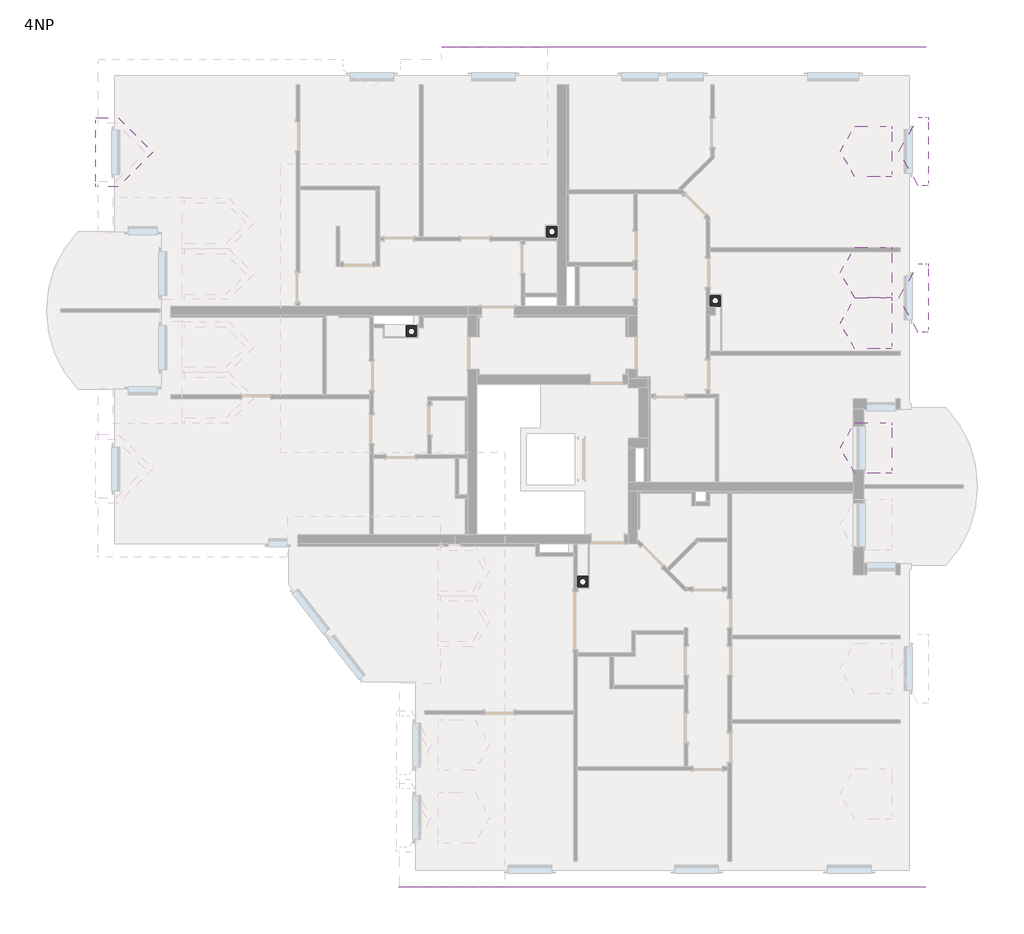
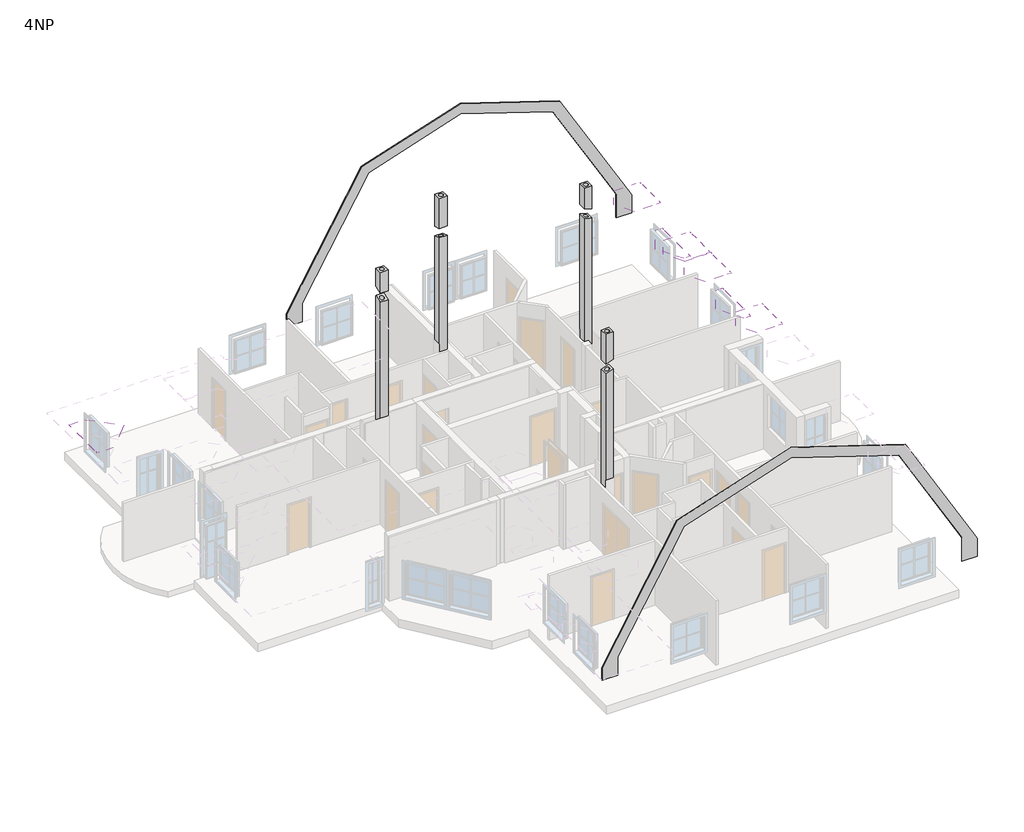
# One storey, part 5 of 5: 7 roofs, 4 columns, 2 proxies.
"""IFC4 building model written with IfcOpenShell, lengths in millimetres."""

import ifcopenshell
import ifcopenshell.guid

model = None  # the IFC model being written
_history = None  # IfcOwnerHistory: only IFC2X3 demands one
_inside = {}  # id of a spatial element -> (the spatial element, [elements in it])
_under = {}  # id of a project, library or spatial element -> (it, [spatial elements below it])
_declared = {}  # id of a project -> (the project, [libraries it declares])
_typed = {}  # id of a type object -> (the type object, [elements of that type])
_made_of = {}  # id of a material, layer set ... -> (it, [elements and type objects made of it])


def new_model(schema):
    """Start an empty IFC model of exactly this schema.

    Asked for "IFC4X3", IfcOpenShell would pick the latest addendum, in which some entities
    have other attributes; the version numbers below select the first issue.
    IFC2X3 requires an IfcOwnerHistory on every rooted entity: one is made here for all.
    """
    global model, _history
    if schema == "IFC4X3":
        model = ifcopenshell.file(schema_version=(4, 3, 0, 0))
    else:
        model = ifcopenshell.file(schema=schema)
    _inside.clear()
    _under.clear()
    _declared.clear()
    _typed.clear()
    _made_of.clear()
    _history = None
    if model.schema == "IFC2X3":
        org = make("IfcOrganization", Name="unknown")
        user = make(
            "IfcPersonAndOrganization",
            ThePerson=make("IfcPerson", FamilyName="unknown"),
            TheOrganization=org,
        )
        app = make(
            "IfcApplication",
            ApplicationDeveloper=org,
            Version="unknown",
            ApplicationFullName="unknown",
            ApplicationIdentifier="unknown",
        )
        _history = make(
            "IfcOwnerHistory",
            OwningUser=user,
            OwningApplication=app,
            ChangeAction="ADDED",
            CreationDate=0,
        )
    return model


def make(cls, **values):
    """One entity of the class cls with the attributes given. An attribute that is None is left unset."""
    return model.create_entity(
        cls, **{name: value for name, value in values.items() if value is not None}
    )


def rooted(cls, **values):
    """An entity with a GlobalId (a new one), such as an element, a storey or a relation."""
    return make(cls, GlobalId=ifcopenshell.guid.new(), OwnerHistory=_history, **values)


def si_unit(unit_type, name, prefix=None):
    """IfcSIUnit, for example si_unit("LENGTHUNIT", "METRE", prefix="MILLI")."""
    return make("IfcSIUnit", UnitType=unit_type, Prefix=prefix, Name=name)


def assignment(units):
    """IfcUnitAssignment: the units of a project."""
    return None if units is None else make("IfcUnitAssignment", Units=units)


def point(xyz):
    """IfcCartesianPoint."""
    return None if xyz is None else make("IfcCartesianPoint", Coordinates=xyz)


def direction(xyz):
    """IfcDirection."""
    return None if xyz is None else make("IfcDirection", DirectionRatios=xyz)


def frame(location, z_axis=None, x_axis=None):
    """IfcAxis2Placement3D, a coordinate frame: its origin and axes. An axis left out is left unset."""
    return make(
        "IfcAxis2Placement3D",
        Location=point(location),
        Axis=direction(z_axis),
        RefDirection=direction(x_axis),
    )


def origin():
    """The frame at (0, 0, 0) with its axes left unset."""
    return frame((0.0, 0.0, 0.0))


def place(relative_to, where):
    """IfcLocalPlacement: puts the frame where relative to a parent placement (None: the world)."""
    return make(
        "IfcLocalPlacement", PlacementRelTo=relative_to, RelativePlacement=where
    )


def context(
    kind, dimensions, precision=None, world=None, true_north=None, identifier=None
):
    """IfcGeometricRepresentationContext, for example the 3D "Model" context."""
    return make(
        "IfcGeometricRepresentationContext",
        ContextIdentifier=identifier,
        ContextType=kind,
        CoordinateSpaceDimension=dimensions,
        Precision=precision,
        WorldCoordinateSystem=world,
        TrueNorth=true_north,
    )


def project(units=None, contexts=None):
    """IfcProject with its units and contexts."""
    return rooted(
        "IfcProject",
        Name="project",
        RepresentationContexts=contexts,
        UnitsInContext=assignment(units),
    )


def spatial(cls, under=None, at=None, **own):
    """A site, building, storey or space (cls), placed at a placement, below another one or the project."""
    s = rooted(cls, ObjectPlacement=at, **own)
    if under is not None:
        _under.setdefault(under.id(), (under, []))[1].append(s)
    return s


def polyline(points):
    """IfcPolyline through the points."""
    return make("IfcPolyline", Points=[point(p) for p in points])


def circle_curve(where, radius):
    """IfcCircle in the frame where."""
    return make("IfcCircle", Position=where, Radius=radius)


def ellipse_curve(where, semi_axis1, semi_axis2):
    """IfcEllipse in the frame where."""
    return make(
        "IfcEllipse", Position=where, SemiAxis1=semi_axis1, SemiAxis2=semi_axis2
    )


def outline(outer, holes=None, kind="AREA"):
    """IfcArbitraryClosedProfileDef: a profile drawn as a closed curve; with holes, ...WithVoids."""
    if holes is None:
        return make("IfcArbitraryClosedProfileDef", ProfileType=kind, OuterCurve=outer)
    return make(
        "IfcArbitraryProfileDefWithVoids",
        ProfileType=kind,
        OuterCurve=outer,
        InnerCurves=holes,
    )


def extrude(swept, where, along, depth):
    """IfcExtrudedAreaSolid: the profile swept, set in the frame where, extruded along a direction by depth."""
    return make(
        "IfcExtrudedAreaSolid",
        SweptArea=swept,
        Position=where,
        ExtrudedDirection=direction(along),
        Depth=depth,
    )


def faces_of(points, faces, orient=None, outer=None):
    """IfcFace entities. A face is a list of loops; a loop is a list of indices into points, from 0.

    orient and outer hold one flag for each loop. By default every Orientation is true, the
    first loop of a face is its IfcFaceOuterBound and the others are IfcFaceBound.
    """
    made = []
    for i, loops in enumerate(faces):
        bounds = []
        for j, loop in enumerate(loops):
            is_outer = j == 0 if outer is None else outer[i][j]
            bounds.append(
                make(
                    "IfcFaceOuterBound" if is_outer else "IfcFaceBound",
                    Bound=make("IfcPolyLoop", Polygon=[points[k] for k in loop]),
                    Orientation=True if orient is None else orient[i][j],
                )
            )
        made.append(make("IfcFace", Bounds=bounds))
    return made


def faceted_brep(points, faces, orient=None, outer=None, voids=None):
    """IfcFacetedBrep: a solid bounded by flat faces; with voids (closed shells), ...WithVoids."""
    shared = [point(p) for p in points]
    hull = make("IfcClosedShell", CfsFaces=faces_of(shared, faces, orient, outer))
    if voids is None:
        return make("IfcFacetedBrep", Outer=hull)
    return make(
        "IfcFacetedBrepWithVoids",
        Outer=hull,
        Voids=[
            make(cls, CfsFaces=faces_of(shared, fs, o, b)) for cls, fs, o, b in voids
        ],
    )


def shape(context_of_items, identifier, shape_type, items):
    """IfcShapeRepresentation: the items that make up one representation, for example the "Body"."""
    return make(
        "IfcShapeRepresentation",
        ContextOfItems=context_of_items,
        RepresentationIdentifier=identifier,
        RepresentationType=shape_type,
        Items=items,
    )


def source(mapping_origin, context_of_items, identifier, shape_type, items):
    """IfcRepresentationMap: a shape defined once, which mapped items show again and again."""
    return make(
        "IfcRepresentationMap",
        MappingOrigin=mapping_origin,
        MappedRepresentation=shape(context_of_items, identifier, shape_type, items),
    )


def transform(
    local_origin,
    x_axis=None,
    y_axis=None,
    z_axis=None,
    scale=None,
    scale2=None,
    scale3=None,
    uniform=True,
):
    """IfcCartesianTransformationOperator3D, or its non-uniform kind. x_axis, y_axis, z_axis: its Axis1, 2, 3."""
    if uniform:
        return make(
            "IfcCartesianTransformationOperator3D",
            Axis1=direction(x_axis),
            Axis2=direction(y_axis),
            LocalOrigin=point(local_origin),
            Scale=scale,
            Axis3=direction(z_axis),
        )
    return make(
        "IfcCartesianTransformationOperator3DnonUniform",
        Axis1=direction(x_axis),
        Axis2=direction(y_axis),
        LocalOrigin=point(local_origin),
        Scale=scale,
        Axis3=direction(z_axis),
        Scale2=scale2,
        Scale3=scale3,
    )


def mapped(mapping_source, mapping_target):
    """IfcMappedItem: shows the shape of a source again, moved by a transform."""
    return make(
        "IfcMappedItem", MappingSource=mapping_source, MappingTarget=mapping_target
    )


def made_of(thing, what):
    """Note that an element or type object is made of a material, layer set ...; save() writes the relation."""
    if what is not None:
        _made_of.setdefault(what.id(), (what, []))[1].append(thing)
    return thing


def element(
    cls,
    number,
    at=None,
    inside=None,
    cuts=None,
    type_object=None,
    material=None,
    context=None,
    identifier="Body",
    shape_type=None,
    held_by="IfcProductDefinitionShape",
    body=None,
    shapes=None,
    **own,
):
    """One element of the class cls, such as IfcWall. Its Tag is "e" and its number.

    at: its placement. inside: the storey or other place that contains it. cuts: it is an
    opening in that element (IfcRelVoidsElement). A single representation is given by context,
    identifier, shape_type and body (its items); several are given by shapes. held_by: the class
    of the entity that holds the representations. save() writes the other relations.
    """
    e = rooted(cls, Tag="e%d" % number, ObjectPlacement=at, **own)
    if body is not None:
        shapes = [shape(context, identifier, shape_type, body)]
    if shapes is not None:
        e.Representation = make(held_by, Representations=shapes)
    if inside is not None:
        _inside.setdefault(inside.id(), (inside, []))[1].append(e)
    if cuts is not None:
        rooted(
            "IfcRelVoidsElement", RelatingBuildingElement=cuts, RelatedOpeningElement=e
        )
    if type_object is not None:
        _typed.setdefault(type_object.id(), (type_object, []))[1].append(e)
    return made_of(e, material)


def aggregate(whole, parts):
    """IfcRelAggregates: a whole, such as a stair, and the parts it consists of."""
    return rooted("IfcRelAggregates", RelatingObject=whole, RelatedObjects=parts)


def save(model, path):
    """Write the relations noted so far, then the file.

    IfcRelAggregates (storeys below a building ...), IfcRelContainedInSpatialStructure (elements
    in a storey), IfcRelDefinesByType, IfcRelAssociatesMaterial and IfcRelDeclares: one each for
    every whole, place, type object, material and project.
    """
    for whole, parts in _under.values():
        aggregate(whole, parts)
    for where, things in _inside.values():
        rooted(
            "IfcRelContainedInSpatialStructure",
            RelatedElements=things,
            RelatingStructure=where,
        )
    for kind, things in _typed.values():
        rooted("IfcRelDefinesByType", RelatedObjects=things, RelatingType=kind)
    for what, things in _made_of.values():
        rooted("IfcRelAssociatesMaterial", RelatedObjects=things, RelatingMaterial=what)
    for by, libraries in _declared.values():
        rooted("IfcRelDeclares", RelatingContext=by, RelatedDefinitions=libraries)
    model.write(path)


def plane_surface(at):
    """IfcPlane: the flat surface through the origin of the frame at, square to its z axis."""
    return make("IfcPlane", Position=at)


def revolved_surface(curve, axis_point, axis_direction):
    """IfcSurfaceOfRevolution: the curve turned about the line through axis_point along axis_direction."""
    return make(
        "IfcSurfaceOfRevolution",
        SweptCurve=make("IfcArbitraryOpenProfileDef", ProfileType="CURVE", Curve=curve),
        AxisPosition=make("IfcAxis1Placement", Location=point(axis_point), Axis=direction(axis_direction)),
    )


def advanced_brep(points, edges, surfaces, faces):
    """IfcAdvancedBrep: a solid bounded by faces that lie on surfaces and meet in shared edges.

    An edge is (start, end): straight between two places in points (the first is 0);
    or (start, end, curve); or (start, end, curve, False) where it runs against its curve.
    A face is (place in surfaces, loops), or (place, loops, False) where it looks against
    its surface's normal. A loop lists edges by number (the first is 1), with a minus sign
    where the edge is run from its end to its start. The first loop is the outer one.
    """
    corners = [point(p) for p in points]
    vertices = [make("IfcVertexPoint", VertexGeometry=c) for c in corners]
    made = []
    for start, end, *more in edges:
        made.append(
            make(
                "IfcEdgeCurve",
                EdgeStart=vertices[start],
                EdgeEnd=vertices[end],
                EdgeGeometry=more[0] if more else make("IfcPolyline", Points=[corners[start], corners[end]]),
                SameSense=more[1] if len(more) > 1 else True,
            )
        )
    hull = []
    for where, loops, *sense in faces:
        bounds = []
        for j, loop in enumerate(loops):
            ring = [make("IfcOrientedEdge", EdgeElement=made[abs(k) - 1], Orientation=k > 0) for k in loop]
            bounds.append(
                make(
                    "IfcFaceOuterBound" if j == 0 else "IfcFaceBound",
                    Bound=make("IfcEdgeLoop", EdgeList=ring),
                    Orientation=True,
                )
            )
        hull.append(make("IfcAdvancedFace", Bounds=bounds, FaceSurface=surfaces[where], SameSense=sense[0] if sense else True))
    return make("IfcAdvancedBrep", Outer=make("IfcClosedShell", CfsFaces=hull))


def first_first_963d72c4(model_context):
    return source(origin(), model_context, "Body", "SweptSolid", [
        extrude(outline(polyline([(17308.5230625, 2571.9978058), (15874.4631818, -1841.5846805), (10859.1168825, -4743.2922165), (10350.0, -4743.2922165), (10350.0, -4137.1962165), (11107.9606859, -4137.1962165), (15541.4241828, -1572.1461339), (16887.9381728, 2571.9978058), (15541.4515416, 6716.0575439), (11308.6981242, 9162.8037835), (10350.0, 9162.8037835), (10350.0, 9762.8037835), (11070.0, 9762.8037835), (15874.4631818, 6985.5802922), (17308.5230625, 2571.9978058)])), frame((0.0, -11552.3709459, 0.0), z_axis=(0.0, 1.0, 0.0), x_axis=(0.0, 0.0, 1.0)), (0.0, 0.0, 1.0), 20.0),
    ])


def first2_first2_621e7f1b(model_context):
    return source(origin(), model_context, "Body", "SweptSolid", [
        extrude(outline(polyline([(15874.4631818, 6985.5802922), (17118.4450402, 3156.9978058), (15874.4631818, -671.5846805), (10859.1168825, -3567.1962165), (10350.0, -3567.1962165), (10350.0, -2967.1962165), (11098.347367, -2967.1962165), (15541.4887794, -401.947326), (16697.8601505, 3156.9978058), (15541.4515416, 6716.0575439), (11308.6981242, 9162.8037835), (10350.0, 9162.8037835), (10350.0, 9762.8037835), (11070.0, 9762.8037835), (15874.4631818, 6985.5802922)])), frame((0.0, 11592.3927558, 0.0), z_axis=(0.0, 1.0, 0.0), x_axis=(0.0, 0.0, 1.0)), (0.0, 0.0, 1.0), 25.0),
    ])


model = new_model("IFC4")

# Units and contexts
model_context = context("Model", 3, world=origin())
ifc_project = project(units=[si_unit("LENGTHUNIT", "METRE", prefix="MILLI")], contexts=[model_context])

# Site, building, storey
site = spatial("IfcSite", under=ifc_project)
building = spatial("IfcBuilding", under=site)
storey = spatial("IfcBuildingStorey", under=building, Name="4NP", Elevation=8850.0)

# Proxies
placement = place(None, origin())
first_first_shape = first_first_963d72c4(model_context)
element("IfcBuildingElementProxy", 1, Name="first : first", ObjectType="first : first", at=placement, inside=storey, context=model_context, shape_type="MappedRepresentation", body=[
    mapped(first_first_shape, transform((0.0, 0.0, 0.0), x_axis=(1.0, 0.0, 0.0), y_axis=(0.0, 1.0, 0.0), z_axis=(0.0, 0.0, 1.0))),
])
first2_first2_shape = first2_first2_621e7f1b(model_context)
element("IfcBuildingElementProxy", 2, Name="first2 : first2", ObjectType="first2 : first2", at=placement, inside=storey, context=model_context, shape_type="MappedRepresentation", body=[
    mapped(first2_first2_shape, transform((0.0, 0.0, 0.0), x_axis=(1.0, 0.0, 0.0), y_axis=(0.0, 1.0, 0.0), z_axis=(0.0, 0.0, 1.0))),
])

# Columns
element("IfcColumn", 3, ObjectType="AT Kamin : 300/300/160", at=placement, inside=storey, context=model_context, shape_type="AdvancedBrep", body=[
    advanced_brep(
    [(-4257.1962165, 3917.6290541, 17750.0), (-4557.1962165, 3917.6290541, 17750.0), (-4557.1962165, 3617.6290541, 17750.0), (-4257.1962165, 3617.6290541, 17750.0), (-4487.1962165, 3767.6290541, 17750.0), (-4327.1962165, 3767.6290541, 17750.0), (-4257.1962165, 3917.6290541, 17005.3753871), (-4541.2600407, 3917.6290541, 17005.3753871), (-4557.1962165, 3917.6290541, 17000.1974097), (-4557.1962165, 3901.6928783, 17000.1974097), (-4557.1962165, 3617.6290541, 16907.8994783), (-4257.1962165, 3617.6290541, 16907.8994783), (-4487.1962165, 3767.6290541, 16956.6374327), (-4327.1962165, 3767.6290541, 16956.6374327)],
    [
        (0, 1),
        (1, 2),
        (2, 3),
        (3, 0),
        (4, 5, circle_curve(frame((-4407.1962165, 3767.6290541, 17750.0), z_axis=(0.0, 0.0, -1.0), x_axis=(1.0, 0.0, 0.0)), 80.0)),
        (5, 4, circle_curve(frame((-4407.1962165, 3767.6290541, 17750.0), z_axis=(0.0, 0.0, -1.0), x_axis=(1.0, 0.0, 0.0)), 80.0)),
        (0, 6),
        (6, 7),
        (7, 8),
        (8, 1),
        (8, 9),
        (9, 10),
        (10, 2),
        (10, 11),
        (11, 3),
        (11, 6),
        (4, 12),
        (12, 13, ellipse_curve(frame((-4407.1962165, 3767.6290541, 16956.6374327), z_axis=(0.0, 0.30901699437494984, -0.9510565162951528), x_axis=(0.0, -0.9510565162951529, -0.30901699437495)), 84.1169779, 80.0)),
        (13, 5),
        (13, 12, ellipse_curve(frame((-4407.1962165, 3767.6290541, 16956.6374327), z_axis=(0.0, 0.30901699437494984, -0.9510565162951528), x_axis=(0.0, -0.9510565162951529, -0.30901699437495)), 84.1169779, 80.0)),
        (7, 9),
    ],
    [
        plane_surface(frame((-4557.1962165, 3917.6290541, 17750.0), z_axis=(0.0, 0.0, 1.0), x_axis=(-1.0, 0.0, 0.0))),
        plane_surface(frame((-4257.1962165, 3917.6290541, 17750.0), z_axis=(0.0, 1.0, 0.0), x_axis=(0.0, 0.0, -1.0))),
        plane_surface(frame((-4557.1962165, 3917.6290541, 17750.0), z_axis=(-1.0, 0.0, 0.0), x_axis=(0.0, 0.0, -1.0))),
        plane_surface(frame((-4557.1962165, 3617.6290541, 17750.0), z_axis=(0.0, -1.0, 0.0), x_axis=(0.0, 0.0, -1.0))),
        plane_surface(frame((-4257.1962165, 3617.6290541, 17750.0), z_axis=(1.0, 0.0, 0.0), x_axis=(0.0, 0.0, -1.0))),
        revolved_surface(polyline([(-4327.1962165, 3767.6290541, 16930.643857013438), (-4327.1962165, 3767.6290541, 17750.0)]), (-4407.1962165, 3767.6290541, 8850.0), (0.0, 0.0, -1.0)),
        plane_surface(frame((-8021.8499172, 8372.0175181, 15874.4631818), z_axis=(0.30901699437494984, 0.0, -0.9510565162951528), x_axis=(0.0, -1.0, 0.0))),
        plane_surface(frame((-8021.8499172, 437.0391776, 15874.4631818), z_axis=(0.0, 0.30901699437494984, -0.9510565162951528), x_axis=(1.0, 0.0, 0.0))),
    ],
    [
        (0, [[1, 2, 3, 4], [5, 6]]),
        (1, [[-1, 7, 8, 9, 10]]),
        (2, [[-2, -10, 11, 12, 13]]),
        (3, [[-3, -13, 14, 15]]),
        (4, [[-4, -15, 16, -7]]),
        (5, [[-5, 17, 18, 19]]),
        (5, [[-6, -19, 20, -17]]),
        (6, [[21, -11, -9]]),
        (7, [[-21, -8, -16, -14, -12], [-18, -20]]),
    ],
),
    advanced_brep(
    [(-4257.1962165, 3917.6290541, 8850.0), (-4257.1962165, 3867.6290541, 8850.0), (-4257.1962165, 3617.6290541, 8850.0), (-4557.1962165, 3617.6290541, 8850.0), (-4557.1962165, 3917.6290541, 8850.0), (-4487.1962165, 3767.6290541, 8850.0), (-4327.1962165, 3767.6290541, 8850.0), (-4557.1962165, 3901.6928783, 16621.671009), (-4541.2600407, 3917.6290541, 16626.8489864), (-4557.1962165, 3917.6290541, 16621.671009), (-4557.1962165, 3617.6290541, 16529.3730775), (-4257.1962165, 3617.6290541, 16529.3730775), (-4257.1962165, 3917.6290541, 16626.8489864), (-4487.1962165, 3767.6290541, 16578.111032), (-4327.1962165, 3767.6290541, 16578.111032), (-4257.1962165, 3617.6290541, 11800.0)],
    [
        (0, 1),
        (1, 2),
        (2, 3),
        (3, 4),
        (4, 0),
        (5, 6, circle_curve(frame((-4407.1962165, 3767.6290541, 8850.0), z_axis=(0.0, 0.0, 1.0), x_axis=(1.0, 0.0, 0.0)), 80.0)),
        (6, 5, circle_curve(frame((-4407.1962165, 3767.6290541, 8850.0), z_axis=(0.0, 0.0, 1.0), x_axis=(1.0, 0.0, 0.0)), 80.0)),
        (7, 8),
        (8, 9),
        (9, 7),
        (7, 10),
        (10, 11),
        (11, 12),
        (12, 8),
        (13, 14, ellipse_curve(frame((-4407.1962165, 3767.6290541, 16578.111032), z_axis=(0.0, 0.30901699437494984, -0.9510565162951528), x_axis=(0.0, -0.9510565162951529, -0.30901699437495)), 84.1169779, 80.0)),
        (14, 13, ellipse_curve(frame((-4407.1962165, 3767.6290541, 16578.111032), z_axis=(0.0, 0.30901699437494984, -0.9510565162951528), x_axis=(0.0, -0.9510565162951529, -0.30901699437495)), 84.1169779, 80.0)),
        (4, 9),
        (12, 0),
        (3, 10),
        (2, 15),
        (15, 11),
        (6, 14),
        (13, 5),
    ],
    [
        plane_surface(frame((-4557.1962165, 3917.6290541, 8850.0), z_axis=(0.0, 0.0, -1.0), x_axis=(1.0, 0.0, 0.0))),
        plane_surface(frame((-8021.8499172, 8372.0175181, 15495.936781), z_axis=(-0.30901699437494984, 0.0, 0.9510565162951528), x_axis=(0.0, -1.0, 0.0))),
        plane_surface(frame((-8021.8499172, 437.0391776, 15495.936781), z_axis=(0.0, -0.30901699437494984, 0.9510565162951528), x_axis=(1.0, 0.0, 0.0))),
        plane_surface(frame((-4257.1962165, 3917.6290541, 17750.0), z_axis=(0.0, 1.0, 0.0), x_axis=(0.0, 0.0, -1.0))),
        plane_surface(frame((-4557.1962165, 3917.6290541, 17750.0), z_axis=(-1.0, 0.0, 0.0), x_axis=(0.0, 0.0, -1.0))),
        plane_surface(frame((-4557.1962165, 3617.6290541, 17750.0), z_axis=(0.0, -1.0, 0.0), x_axis=(0.0, 0.0, -1.0))),
        plane_surface(frame((-4257.1962165, 3617.6290541, 17750.0), z_axis=(1.0, 0.0, 0.0), x_axis=(0.0, 0.0, -1.0))),
        revolved_surface(polyline([(-4327.1962165, 3767.6290541, 8850.0), (-4327.1962165, 3767.6290541, 16604.104607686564)]), (-4407.1962165, 3767.6290541, 8850.0), (0.0, 0.0, -1.0)),
    ],
    [
        (0, [[1, 2, 3, 4, 5], [6, 7]]),
        (1, [[8, 9, 10]]),
        (2, [[-8, 11, 12, 13, 14], [15, 16]]),
        (3, [[-5, 17, -9, -14, 18]]),
        (4, [[-4, 19, -11, -10, -17]]),
        (5, [[-3, 20, 21, -12, -19]]),
        (6, [[-2, -1, -18, -13, -21, -20]]),
        (7, [[-7, 22, -15, 23]]),
        (7, [[-6, -23, -16, -22]]),
    ],
),
])
element("IfcColumn", 4, ObjectType="AT Kamin : 300/300/160", at=placement, inside=storey, context=model_context, shape_type="AdvancedBrep", body=[
    advanced_brep(
    [(4112.8037835, 4767.6290541, 17750.0), (3812.8037835, 4767.6290541, 17750.0), (3812.8037835, 4467.6290541, 17750.0), (4112.8037835, 4467.6290541, 17750.0), (3882.8037835, 4617.6290541, 17750.0), (4042.8037835, 4617.6290541, 17750.0), (4112.8037835, 4767.6290541, 16807.8848523), (3812.8037835, 4767.6290541, 16905.3607612), (3812.8037835, 4467.6290541, 16905.3607612), (4112.8037835, 4467.6290541, 16807.8848523), (3882.8037835, 4617.6290541, 16882.6163825), (4042.8037835, 4617.6290541, 16830.6292311)],
    [
        (0, 1),
        (1, 2),
        (2, 3),
        (3, 0),
        (4, 5, circle_curve(frame((3962.8037835, 4617.6290541, 17750.0), z_axis=(0.0, 0.0, -1.0), x_axis=(1.0, 0.0, 0.0)), 80.0)),
        (5, 4, circle_curve(frame((3962.8037835, 4617.6290541, 17750.0), z_axis=(0.0, 0.0, -1.0), x_axis=(1.0, 0.0, 0.0)), 80.0)),
        (0, 6),
        (6, 7),
        (7, 1),
        (7, 8),
        (8, 2),
        (8, 9),
        (9, 3),
        (9, 6),
        (4, 10),
        (10, 11, ellipse_curve(frame((3962.8037835, 4617.6290541, 16856.6228068), z_axis=(-0.30901699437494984, 0.0, -0.9510565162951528), x_axis=(0.9510565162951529, 0.0, -0.30901699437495)), 84.1169779, 80.0)),
        (11, 5),
        (11, 10, ellipse_curve(frame((3962.8037835, 4617.6290541, 16856.6228068), z_axis=(-0.30901699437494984, 0.0, -0.9510565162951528), x_axis=(0.9510565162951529, 0.0, -0.30901699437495)), 84.1169779, 80.0)),
    ],
    [
        plane_surface(frame((3812.8037835, 4767.6290541, 17750.0), z_axis=(0.0, 0.0, 1.0), x_axis=(-1.0, 0.0, 0.0))),
        plane_surface(frame((4112.8037835, 4767.6290541, 17750.0), z_axis=(0.0, 1.0, 0.0), x_axis=(0.0, 0.0, -1.0))),
        plane_surface(frame((3812.8037835, 4767.6290541, 17750.0), z_axis=(-1.0, 0.0, 0.0), x_axis=(0.0, 0.0, -1.0))),
        plane_surface(frame((3812.8037835, 4467.6290541, 17750.0), z_axis=(0.0, -1.0, 0.0), x_axis=(0.0, 0.0, -1.0))),
        plane_surface(frame((4112.8037835, 4467.6290541, 17750.0), z_axis=(1.0, 0.0, 0.0), x_axis=(0.0, 0.0, -1.0))),
        revolved_surface(polyline([(4042.8037835, 4617.6290541, 16830.6292311), (4042.8037835, 4617.6290541, 17750.0)]), (3962.8037835, 4617.6290541, 8850.0), (0.0, 0.0, -1.0)),
        plane_surface(frame((6985.5802922, -11532.3709459, 15874.4631818), z_axis=(-0.30901699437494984, 0.0, -0.9510565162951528), x_axis=(0.0, 1.0, 0.0))),
    ],
    [
        (0, [[1, 2, 3, 4], [5, 6]]),
        (1, [[-1, 7, 8, 9]]),
        (2, [[-2, -9, 10, 11]]),
        (3, [[-3, -11, 12, 13]]),
        (4, [[-4, -13, 14, -7]]),
        (5, [[-5, 15, 16, 17]]),
        (5, [[-6, -17, 18, -15]]),
        (6, [[-8, -14, -12, -10], [-16, -18]]),
    ],
),
    advanced_brep(
    [(4112.8037835, 4767.6290541, 8850.0), (4112.8037835, 4467.6290541, 8850.0), (3962.8037835, 4467.6290541, 8850.0), (3812.8037835, 4467.6290541, 8850.0), (3812.8037835, 4767.6290541, 8850.0), (3882.8037835, 4617.6290541, 8850.0), (4042.8037835, 4617.6290541, 8850.0), (4112.8037835, 4767.6290541, 16429.3584516), (3812.8037835, 4767.6290541, 16526.8343605), (3812.8037835, 4467.6290541, 16526.8343605), (4012.8037835, 4467.6290541, 16461.8504212), (4112.8037835, 4467.6290541, 16429.3584516), (3882.8037835, 4617.6290541, 16504.0899817), (4042.8037835, 4617.6290541, 16452.1028303), (3812.8037835, 4767.6290541, 11800.0), (4112.8037835, 4767.6290541, 11800.0), (3812.8037835, 4467.6290541, 11480.0), (4112.8037835, 4467.6290541, 11800.0)],
    [
        (0, 1),
        (1, 2),
        (2, 3),
        (3, 4),
        (4, 0),
        (5, 6, circle_curve(frame((3962.8037835, 4617.6290541, 8850.0), z_axis=(0.0, 0.0, 1.0), x_axis=(1.0, 0.0, 0.0)), 80.0)),
        (6, 5, circle_curve(frame((3962.8037835, 4617.6290541, 8850.0), z_axis=(0.0, 0.0, 1.0), x_axis=(1.0, 0.0, 0.0)), 80.0)),
        (7, 8),
        (8, 9),
        (9, 10),
        (10, 11),
        (11, 7),
        (12, 13, ellipse_curve(frame((3962.8037835, 4617.6290541, 16478.096406), z_axis=(-0.30901699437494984, 0.0, -0.9510565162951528), x_axis=(0.9510565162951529, 0.0, -0.30901699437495)), 84.1169779, 80.0)),
        (13, 12, ellipse_curve(frame((3962.8037835, 4617.6290541, 16478.096406), z_axis=(-0.30901699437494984, 0.0, -0.9510565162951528), x_axis=(0.9510565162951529, 0.0, -0.30901699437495)), 84.1169779, 80.0)),
        (4, 14),
        (14, 8),
        (7, 15),
        (15, 0),
        (3, 16),
        (16, 9),
        (1, 17),
        (17, 11),
        (6, 13),
        (12, 5),
    ],
    [
        plane_surface(frame((3812.8037835, 4767.6290541, 8850.0), z_axis=(0.0, 0.0, -1.0), x_axis=(1.0, 0.0, 0.0))),
        plane_surface(frame((6985.5802922, -11532.3709459, 15495.936781), z_axis=(0.30901699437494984, 0.0, 0.9510565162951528), x_axis=(0.0, 1.0, 0.0))),
        plane_surface(frame((4112.8037835, 4767.6290541, 17750.0), z_axis=(0.0, 1.0, 0.0), x_axis=(0.0, 0.0, -1.0))),
        plane_surface(frame((3812.8037835, 4767.6290541, 17750.0), z_axis=(-1.0, 0.0, 0.0), x_axis=(0.0, 0.0, -1.0))),
        plane_surface(frame((3812.8037835, 4467.6290541, 17750.0), z_axis=(0.0, -1.0, 0.0), x_axis=(0.0, 0.0, -1.0))),
        plane_surface(frame((4112.8037835, 4467.6290541, 17750.0), z_axis=(1.0, 0.0, 0.0), x_axis=(0.0, 0.0, -1.0))),
        revolved_surface(polyline([(4042.8037835, 4617.6290541, 8850.0), (4042.8037835, 4617.6290541, 16504.0899817)]), (3962.8037835, 4617.6290541, 8850.0), (0.0, 0.0, -1.0)),
    ],
    [
        (0, [[1, 2, 3, 4, 5], [6, 7]]),
        (1, [[8, 9, 10, 11, 12], [13, 14]]),
        (2, [[-5, 15, 16, -8, 17, 18]]),
        (3, [[-4, 19, 20, -9, -16, -15]]),
        (4, [[-3, -2, 21, 22, -11, -10, -20, -19]]),
        (5, [[-1, -18, -17, -12, -22, -21]]),
        (6, [[-7, 23, -13, 24]]),
        (6, [[-6, -24, -14, -23]]),
    ],
),
])
element("IfcColumn", 5, ObjectType="AT Kamin : 300/300/160", at=placement, inside=storey, context=model_context, shape_type="AdvancedBrep", body=[
    advanced_brep(
    [(463.5618728, -2982.3709459, 17750.0), (163.5618728, -2982.3709459, 17750.0), (163.5618728, -3282.3709459, 17750.0), (463.5618728, -3282.3709459, 17750.0), (233.5618728, -3132.3709459, 17750.0), (393.5618728, -3132.3709459, 17750.0), (463.5618728, -2982.3709459, 16623.4506996), (163.5618728, -2982.3709459, 16525.9747908), (163.5618728, -3282.3709459, 16525.9747908), (463.5618728, -3282.3709459, 16623.4506996), (233.5618728, -3132.3709459, 16548.7191695), (393.5618728, -3132.3709459, 16600.7063209)],
    [
        (0, 1),
        (1, 2),
        (2, 3),
        (3, 0),
        (4, 5, circle_curve(frame((313.5618728, -3132.3709459, 17750.0), z_axis=(0.0, 0.0, -1.0), x_axis=(1.0, 0.0, 0.0)), 80.0)),
        (5, 4, circle_curve(frame((313.5618728, -3132.3709459, 17750.0), z_axis=(0.0, 0.0, -1.0), x_axis=(1.0, 0.0, 0.0)), 80.0)),
        (0, 6),
        (6, 7),
        (7, 1),
        (7, 8),
        (8, 2),
        (8, 9),
        (9, 3),
        (9, 6),
        (4, 10),
        (10, 11, ellipse_curve(frame((313.5618728, -3132.3709459, 16574.7127452), z_axis=(0.30901699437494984, 0.0, -0.9510565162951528), x_axis=(-0.9510565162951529, 0.0, -0.30901699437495)), 84.1169779, 80.0)),
        (11, 5),
        (11, 10, ellipse_curve(frame((313.5618728, -3132.3709459, 16574.7127452), z_axis=(0.30901699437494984, 0.0, -0.9510565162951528), x_axis=(-0.9510565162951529, 0.0, -0.30901699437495)), 84.1169779, 80.0)),
    ],
    [
        plane_surface(frame((163.5618728, -2982.3709459, 17750.0), z_axis=(0.0, 0.0, 1.0), x_axis=(-1.0, 0.0, 0.0))),
        plane_surface(frame((463.5618728, -2982.3709459, 17750.0), z_axis=(0.0, 1.0, 0.0), x_axis=(0.0, 0.0, -1.0))),
        plane_surface(frame((163.5618728, -2982.3709459, 17750.0), z_axis=(-1.0, 0.0, 0.0), x_axis=(0.0, 0.0, -1.0))),
        plane_surface(frame((163.5618728, -3282.3709459, 17750.0), z_axis=(0.0, -1.0, 0.0), x_axis=(0.0, 0.0, -1.0))),
        plane_surface(frame((463.5618728, -3282.3709459, 17750.0), z_axis=(1.0, 0.0, 0.0), x_axis=(0.0, 0.0, -1.0))),
        revolved_surface(polyline([(393.5618728, -3132.3709459, 16548.7191695), (393.5618728, -3132.3709459, 17750.0)]), (313.5618728, -3132.3709459, 8850.0), (0.0, 0.0, -1.0)),
        plane_surface(frame((-1841.5846805, 437.0391776, 15874.4631818), z_axis=(0.30901699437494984, 0.0, -0.9510565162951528), x_axis=(0.0, -1.0, 0.0))),
    ],
    [
        (0, [[1, 2, 3, 4], [5, 6]]),
        (1, [[-1, 7, 8, 9]]),
        (2, [[-2, -9, 10, 11]]),
        (3, [[-3, -11, 12, 13]]),
        (4, [[-4, -13, 14, -7]]),
        (5, [[-5, 15, 16, 17]]),
        (5, [[-6, -17, 18, -15]]),
        (6, [[-8, -14, -12, -10], [-16, -18]]),
    ],
),
    advanced_brep(
    [(463.5618728, -2982.3709459, 8850.0), (463.5618728, -3282.3709459, 8850.0), (163.5618728, -3282.3709459, 8850.0), (163.5618728, -2982.3709459, 8850.0), (233.5618728, -3132.3709459, 8850.0), (393.5618728, -3132.3709459, 8850.0), (463.5618728, -2982.3709459, 16244.9242989), (163.5618728, -2982.3709459, 16147.44839), (163.5618728, -3282.3709459, 16147.44839), (463.5618728, -3282.3709459, 16244.9242989), (233.5618728, -3132.3709459, 16170.1927688), (393.5618728, -3132.3709459, 16222.1799202), (163.5618728, -3282.3709459, 11800.0), (463.5618728, -3282.3709459, 11800.0)],
    [
        (0, 1),
        (1, 2),
        (2, 3),
        (3, 0),
        (4, 5, circle_curve(frame((313.5618728, -3132.3709459, 8850.0), z_axis=(0.0, 0.0, 1.0), x_axis=(1.0, 0.0, 0.0)), 80.0)),
        (5, 4, circle_curve(frame((313.5618728, -3132.3709459, 8850.0), z_axis=(0.0, 0.0, 1.0), x_axis=(1.0, 0.0, 0.0)), 80.0)),
        (6, 7),
        (7, 8),
        (8, 9),
        (9, 6),
        (10, 11, ellipse_curve(frame((313.5618728, -3132.3709459, 16196.1863445), z_axis=(0.30901699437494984, 0.0, -0.9510565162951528), x_axis=(-0.9510565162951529, 0.0, -0.30901699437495)), 84.1169779, 80.0)),
        (11, 10, ellipse_curve(frame((313.5618728, -3132.3709459, 16196.1863445), z_axis=(0.30901699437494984, 0.0, -0.9510565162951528), x_axis=(-0.9510565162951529, 0.0, -0.30901699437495)), 84.1169779, 80.0)),
        (3, 7),
        (6, 0),
        (2, 12),
        (12, 8),
        (1, 13),
        (13, 9),
        (5, 11),
        (10, 4),
    ],
    [
        plane_surface(frame((163.5618728, -2982.3709459, 8850.0), z_axis=(0.0, 0.0, -1.0), x_axis=(1.0, 0.0, 0.0))),
        plane_surface(frame((-1841.5846805, 437.0391776, 15495.936781), z_axis=(-0.30901699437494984, 0.0, 0.9510565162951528), x_axis=(0.0, -1.0, 0.0))),
        plane_surface(frame((463.5618728, -2982.3709459, 17750.0), z_axis=(0.0, 1.0, 0.0), x_axis=(0.0, 0.0, -1.0))),
        plane_surface(frame((163.5618728, -2982.3709459, 17750.0), z_axis=(-1.0, 0.0, 0.0), x_axis=(0.0, 0.0, -1.0))),
        plane_surface(frame((163.5618728, -3282.3709459, 17750.0), z_axis=(0.0, -1.0, 0.0), x_axis=(0.0, 0.0, -1.0))),
        plane_surface(frame((463.5618728, -3282.3709459, 17750.0), z_axis=(1.0, 0.0, 0.0), x_axis=(0.0, 0.0, -1.0))),
        revolved_surface(polyline([(393.5618728, -3132.3709459, 8850.0), (393.5618728, -3132.3709459, 16222.1799202)]), (313.5618728, -3132.3709459, 8850.0), (0.0, 0.0, -1.0)),
    ],
    [
        (0, [[1, 2, 3, 4], [5, 6]]),
        (1, [[7, 8, 9, 10], [11, 12]]),
        (2, [[-4, 13, -7, 14]]),
        (3, [[-3, 15, 16, -8, -13]]),
        (4, [[-2, 17, 18, -9, -16, -15]]),
        (5, [[-1, -14, -10, -18, -17]]),
        (6, [[-6, 19, -11, 20]]),
        (6, [[-5, -20, -12, -19]]),
    ],
),
])
element("IfcColumn", 6, ObjectType="AT Kamin : 300/300/160", at=placement, inside=storey, context=model_context, shape_type="AdvancedBrep", body=[
    advanced_brep(
    [(-387.1962165, 6667.6290541, 17750.0), (-687.1962165, 6667.6290541, 17750.0), (-687.1962165, 6367.6290541, 17750.0), (-387.1962165, 6367.6290541, 17750.0), (-617.1962165, 6517.6290541, 17750.0), (-457.1962165, 6517.6290541, 17750.0), (-387.1962165, 6667.6290541, 16428.2525638), (-687.1962165, 6667.6290541, 16428.2525638), (-687.1962165, 6367.6290541, 16525.7284726), (-387.1962165, 6367.6290541, 16525.7284726), (-617.1962165, 6517.6290541, 16476.9905182), (-457.1962165, 6517.6290541, 16476.9905182)],
    [
        (0, 1),
        (1, 2),
        (2, 3),
        (3, 0),
        (4, 5, circle_curve(frame((-537.1962165, 6517.6290541, 17750.0), z_axis=(0.0, 0.0, -1.0), x_axis=(1.0, 0.0, 0.0)), 80.0)),
        (5, 4, circle_curve(frame((-537.1962165, 6517.6290541, 17750.0), z_axis=(0.0, 0.0, -1.0), x_axis=(1.0, 0.0, 0.0)), 80.0)),
        (0, 6),
        (6, 7),
        (7, 1),
        (7, 8),
        (8, 2),
        (8, 9),
        (9, 3),
        (9, 6),
        (4, 10),
        (10, 11, ellipse_curve(frame((-537.1962165, 6517.6290541, 16476.9905182), z_axis=(0.0, -0.30901699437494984, -0.9510565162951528), x_axis=(0.0, 0.9510565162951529, -0.30901699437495)), 84.1169779, 80.0)),
        (11, 5),
        (11, 10, ellipse_curve(frame((-537.1962165, 6517.6290541, 16476.9905182), z_axis=(0.0, -0.30901699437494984, -0.9510565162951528), x_axis=(0.0, 0.9510565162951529, -0.30901699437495)), 84.1169779, 80.0)),
    ],
    [
        plane_surface(frame((-687.1962165, 6667.6290541, 17750.0), z_axis=(0.0, 0.0, 1.0), x_axis=(-1.0, 0.0, 0.0))),
        plane_surface(frame((-387.1962165, 6667.6290541, 17750.0), z_axis=(0.0, 1.0, 0.0), x_axis=(0.0, 0.0, -1.0))),
        plane_surface(frame((-687.1962165, 6667.6290541, 17750.0), z_axis=(-1.0, 0.0, 0.0), x_axis=(0.0, 0.0, -1.0))),
        plane_surface(frame((-687.1962165, 6367.6290541, 17750.0), z_axis=(0.0, -1.0, 0.0), x_axis=(0.0, 0.0, -1.0))),
        plane_surface(frame((-387.1962165, 6367.6290541, 17750.0), z_axis=(1.0, 0.0, 0.0), x_axis=(0.0, 0.0, -1.0))),
        revolved_surface(polyline([(-457.1962165, 6517.6290541, 16450.996942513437), (-457.1962165, 6517.6290541, 17750.0)]), (-537.1962165, 6517.6290541, 8850.0), (0.0, 0.0, -1.0)),
        plane_surface(frame((-671.5846805, 8372.0175181, 15874.4631818), z_axis=(0.0, -0.30901699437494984, -0.9510565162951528), x_axis=(-1.0, 0.0, 0.0))),
    ],
    [
        (0, [[1, 2, 3, 4], [5, 6]]),
        (1, [[-1, 7, 8, 9]]),
        (2, [[-2, -9, 10, 11]]),
        (3, [[-3, -11, 12, 13]]),
        (4, [[-4, -13, 14, -7]]),
        (5, [[-5, 15, 16, 17]]),
        (5, [[-6, -17, 18, -15]]),
        (6, [[-8, -14, -12, -10], [-16, -18]]),
    ],
),
    advanced_brep(
    [(-387.1962165, 6667.6290541, 8850.0), (-387.1962165, 6367.6290541, 8850.0), (-687.1962165, 6367.6290541, 8850.0), (-687.1962165, 6667.6290541, 8850.0), (-617.1962165, 6517.6290541, 8850.0), (-457.1962165, 6517.6290541, 8850.0), (-387.1962165, 6667.6290541, 16049.726163), (-687.1962165, 6667.6290541, 16049.726163), (-687.1962165, 6367.6290541, 16147.2020719), (-387.1962165, 6367.6290541, 16147.2020719), (-617.1962165, 6517.6290541, 16098.4641175), (-457.1962165, 6517.6290541, 16098.4641175), (-687.1962165, 6667.6290541, 11800.0), (-687.1962165, 6667.6290541, 14750.0), (-387.1962165, 6667.6290541, 11800.0), (-687.1962165, 6367.6290541, 11800.0), (-687.1962165, 6367.6290541, 14750.0), (-387.1962165, 6367.6290541, 11480.0), (-387.1962165, 6367.6290541, 11800.0), (-387.1962165, 6367.6290541, 14750.0)],
    [
        (0, 1),
        (1, 2),
        (2, 3),
        (3, 0),
        (4, 5, circle_curve(frame((-537.1962165, 6517.6290541, 8850.0), z_axis=(0.0, 0.0, 1.0), x_axis=(1.0, 0.0, 0.0)), 80.0)),
        (5, 4, circle_curve(frame((-537.1962165, 6517.6290541, 8850.0), z_axis=(0.0, 0.0, 1.0), x_axis=(1.0, 0.0, 0.0)), 80.0)),
        (6, 7),
        (7, 8),
        (8, 9),
        (9, 6),
        (10, 11, ellipse_curve(frame((-537.1962165, 6517.6290541, 16098.4641175), z_axis=(0.0, -0.30901699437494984, -0.9510565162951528), x_axis=(0.0, 0.9510565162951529, -0.30901699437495)), 84.1169779, 80.0)),
        (11, 10, ellipse_curve(frame((-537.1962165, 6517.6290541, 16098.4641175), z_axis=(0.0, -0.30901699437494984, -0.9510565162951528), x_axis=(0.0, 0.9510565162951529, -0.30901699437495)), 84.1169779, 80.0)),
        (3, 12),
        (12, 13),
        (13, 7),
        (6, 14),
        (14, 0),
        (2, 15),
        (15, 16),
        (16, 8),
        (1, 17),
        (17, 18),
        (18, 19),
        (19, 9),
        (5, 11),
        (10, 4),
    ],
    [
        plane_surface(frame((-687.1962165, 6667.6290541, 8850.0), z_axis=(0.0, 0.0, -1.0), x_axis=(1.0, 0.0, 0.0))),
        plane_surface(frame((-671.5846805, 8372.0175181, 15495.936781), z_axis=(0.0, 0.30901699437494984, 0.9510565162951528), x_axis=(-1.0, 0.0, 0.0))),
        plane_surface(frame((-387.1962165, 6667.6290541, 17750.0), z_axis=(0.0, 1.0, 0.0), x_axis=(0.0, 0.0, -1.0))),
        plane_surface(frame((-687.1962165, 6667.6290541, 17750.0), z_axis=(-1.0, 0.0, 0.0), x_axis=(0.0, 0.0, -1.0))),
        plane_surface(frame((-687.1962165, 6367.6290541, 17750.0), z_axis=(0.0, -1.0, 0.0), x_axis=(0.0, 0.0, -1.0))),
        plane_surface(frame((-387.1962165, 6367.6290541, 17750.0), z_axis=(1.0, 0.0, 0.0), x_axis=(0.0, 0.0, -1.0))),
        revolved_surface(polyline([(-457.1962165, 6517.6290541, 8850.0), (-457.1962165, 6517.6290541, 16124.457693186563)]), (-537.1962165, 6517.6290541, 8850.0), (0.0, 0.0, -1.0)),
    ],
    [
        (0, [[1, 2, 3, 4], [5, 6]]),
        (1, [[7, 8, 9, 10], [11, 12]]),
        (2, [[-4, 13, 14, 15, -7, 16, 17]]),
        (3, [[-3, 18, 19, 20, -8, -15, -14, -13]]),
        (4, [[-2, 21, 22, 23, 24, -9, -20, -19, -18]]),
        (5, [[-1, -17, -16, -10, -24, -23, -22, -21]]),
        (6, [[-6, 25, -11, 26]]),
        (6, [[-5, -26, -12, -25]]),
    ],
),
])

# Roofs
element("IfcRoof", 7, ObjectType="Dormer", at=placement, inside=storey, context=model_context, shape_type="Brep", body=[
    faceted_brep([(-13107.1962165, 7755.3927399, 10859.1168825), (-13107.1962165, 7755.3927399, 11412.1320344), (-13107.1962165, 8705.3927399, 12362.1320344), (-13107.1962165, 9655.3927399, 11412.1320344), (-13107.1962165, 9655.3927399, 10859.1168825), (-13107.1962165, 9505.3927399, 10859.1168825), (-13107.1962165, 9505.3927399, 11350.0), (-13107.1962165, 8705.3927399, 12150.0), (-13107.1962165, 7905.3927399, 11350.0), (-13107.1962165, 7905.3927399, 10859.1168825), (-13037.1962165, 7755.3927399, 10859.1168825), (-12484.1810646, 7755.3927399, 11412.1320344), (-11534.1810646, 8705.3927399, 12362.1320344), (-12484.1810646, 9655.3927399, 11412.1320344), (-13037.1962165, 9655.3927399, 10859.1168825), (-13037.1962165, 9505.3927399, 10859.1168825), (-12546.313099, 9505.3927399, 11350.0), (-11746.313099, 8705.3927399, 12150.0), (-12546.313099, 7905.3927399, 11350.0), (-13037.1962165, 7905.3927399, 10859.1168825)], [[[0, 1, 2, 3, 4, 5, 6, 7, 8, 9]], [[1, 0, 10, 11]], [[2, 1, 11, 12]], [[3, 2, 12, 13]], [[4, 3, 13, 14]], [[5, 4, 14, 15]], [[6, 5, 15, 16]], [[7, 6, 16, 17]], [[8, 7, 17, 18]], [[9, 8, 18, 19]], [[0, 9, 19, 10]], [[10, 19, 18, 17, 16, 15, 14, 13, 12, 11]]]),
])
element("IfcRoof", 8, ObjectType="Dormer", at=placement, inside=storey, context=model_context, shape_type="Brep", body=[
    faceted_brep([(8827.3155772, -144.0052813, 13245.9738747), (8827.3155772, 5.9947187, 13245.9738747), (8827.3155772, 5.9947187, 14387.8679656), (8827.3155772, 555.9947187, 14937.8679656), (8827.3155772, 1105.9947187, 14387.8679656), (8827.3155772, 1105.9947187, 13239.8778747), (8827.3155772, 1255.9947187, 13239.8778747), (8827.3155772, 1255.9947187, 14450.0), (8827.3155772, 555.9947187, 15150.0), (8827.3155772, -144.0052813, 14450.0), (7811.3598736, -144.0052813, 14450.0), (8506.5046811, -144.0052813, 13245.9738747), (7407.2146852, 555.9947187, 15150.0), (7811.3598736, 1255.9947187, 14450.0), (8510.0242084, 1255.9947187, 13239.8778747), (8510.0242084, 1105.9947187, 13239.8778747), (7847.2318204, 1105.9947187, 14387.8679656), (7529.6891723, 555.9947187, 14937.8679656), (7847.2318204, 5.9947187, 14387.8679656), (8506.5046811, 5.9947187, 13245.9738747)], [[[0, 1, 2, 3, 4, 5, 6, 7, 8, 9]], [[10, 11, 0, 9]], [[12, 10, 9, 8]], [[13, 12, 8, 7]], [[14, 13, 7, 6]], [[15, 14, 6, 5]], [[16, 15, 5, 4]], [[17, 16, 4, 3]], [[18, 17, 3, 2]], [[19, 18, 2, 1]], [[11, 19, 1, 0]], [[11, 10, 12, 13, 14, 15, 16, 17, 18, 19]]]),
])
element("IfcRoof", 9, ObjectType="Dormer", at=placement, inside=storey, context=model_context, shape_type="Brep", body=[
    faceted_brep([(8827.3155772, 4688.4530256, 13245.9738747), (8827.3155772, 4838.4530256, 13245.9738747), (8827.3155772, 4838.4530256, 14387.8679656), (8827.3155772, 5388.4530256, 14937.8679656), (8827.3155772, 5938.4530256, 14387.8679656), (8827.3155772, 5938.4530256, 13239.8778747), (8827.3155772, 6088.4530256, 13239.8778747), (8827.3155772, 6088.4530256, 14450.0), (8827.3155772, 5388.4530256, 15150.0), (8827.3155772, 4688.4530256, 14450.0), (7811.3598736, 4688.4530256, 14450.0), (8506.5046811, 4688.4530256, 13245.9738747), (7407.2146852, 5388.4530256, 15150.0), (7811.3598736, 6088.4530256, 14450.0), (8510.0242084, 6088.4530256, 13239.8778747), (8510.0242084, 5938.4530256, 13239.8778747), (7847.2318204, 5938.4530256, 14387.8679656), (7529.6891723, 5388.4530256, 14937.8679656), (7847.2318204, 4838.4530256, 14387.8679656), (8506.5046811, 4838.4530256, 13245.9738747)], [[[0, 1, 2, 3, 4, 5, 6, 7, 8, 9]], [[10, 11, 0, 9]], [[12, 10, 9, 8]], [[13, 12, 8, 7]], [[14, 13, 7, 6]], [[15, 14, 6, 5]], [[16, 15, 5, 4]], [[17, 16, 4, 3]], [[18, 17, 3, 2]], [[19, 18, 2, 1]], [[11, 19, 1, 0]], [[11, 10, 12, 13, 14, 15, 16, 17, 18, 19]]]),
])
element("IfcRoof", 10, ObjectType="Dormer", at=placement, inside=storey, context=model_context, shape_type="Brep", body=[
    faceted_brep([(8827.3155772, 3288.4530256, 13245.9738747), (8827.3155772, 3438.4530256, 13245.9738747), (8827.3155772, 3438.4530256, 14387.8679656), (8827.3155772, 3988.4530256, 14937.8679656), (8827.3155772, 4538.4530256, 14387.8679656), (8827.3155772, 4538.4530256, 13239.8778747), (8827.3155772, 4688.4530256, 13239.8778747), (8827.3155772, 4688.4530256, 14450.0), (8827.3155772, 3988.4530256, 15150.0), (8827.3155772, 3288.4530256, 14450.0), (7811.3598736, 3288.4530256, 14450.0), (8506.5046811, 3288.4530256, 13245.9738747), (7407.2146852, 3988.4530256, 15150.0), (7811.3598736, 4688.4530256, 14450.0), (8510.0242084, 4688.4530256, 13239.8778747), (8510.0242084, 4538.4530256, 13239.8778747), (7847.2318204, 4538.4530256, 14387.8679656), (7529.6891723, 3988.4530256, 14937.8679656), (7847.2318204, 3438.4530256, 14387.8679656), (8506.5046811, 3438.4530256, 13245.9738747)], [[[0, 1, 2, 3, 4, 5, 6, 7, 8, 9]], [[10, 11, 0, 9]], [[12, 10, 9, 8]], [[13, 12, 8, 7]], [[14, 13, 7, 6]], [[15, 14, 6, 5]], [[16, 15, 5, 4]], [[17, 16, 4, 3]], [[18, 17, 3, 2]], [[19, 18, 2, 1]], [[11, 19, 1, 0]], [[11, 10, 12, 13, 14, 15, 16, 17, 18, 19]]]),
])
element("IfcRoof", 11, ObjectType="Dormer", at=placement, inside=storey, context=model_context, shape_type="Brep", body=[
    faceted_brep([(8827.3155772, 8025.6927772, 13245.9738747), (8827.3155772, 8175.6927772, 13245.9738747), (8827.3155772, 8175.6927772, 14387.8679656), (8827.3155772, 8725.6927772, 14937.8679656), (8827.3155772, 9275.6927772, 14387.8679656), (8827.3155772, 9275.6927772, 13239.8778747), (8827.3155772, 9425.6927772, 13239.8778747), (8827.3155772, 9425.6927772, 14450.0), (8827.3155772, 8725.6927772, 15150.0), (8827.3155772, 8025.6927772, 14450.0), (7811.3598736, 8025.6927772, 14450.0), (8506.5046811, 8025.6927772, 13245.9738747), (7407.2146852, 8725.6927772, 15150.0), (7811.3598736, 9425.6927772, 14450.0), (8510.0242084, 9425.6927772, 13239.8778747), (8510.0242084, 9275.6927772, 13239.8778747), (7847.2318204, 9275.6927772, 14387.8679656), (7529.6891723, 8725.6927772, 14937.8679656), (7847.2318204, 8175.6927772, 14387.8679656), (8506.5046811, 8175.6927772, 13245.9738747)], [[[0, 1, 2, 3, 4, 5, 6, 7, 8, 9]], [[10, 11, 0, 9]], [[12, 10, 9, 8]], [[13, 12, 8, 7]], [[14, 13, 7, 6]], [[15, 14, 6, 5]], [[16, 15, 5, 4]], [[17, 16, 4, 3]], [[18, 17, 3, 2]], [[19, 18, 2, 1]], [[11, 19, 1, 0]], [[11, 10, 12, 13, 14, 15, 16, 17, 18, 19]]]),
])
element("IfcRoof", 12, ObjectType="Dormer", at=placement, inside=storey, context=model_context, shape_type="Brep", body=[
    faceted_brep([(9832.8037835, 3738.4530256, 10859.1168825), (9832.8037835, 3888.4530256, 10859.1168825), (9832.8037835, 3888.4530256, 11350.0), (9832.8037835, 4688.4530256, 12150.0), (9832.8037835, 5488.4530256, 11350.0), (9832.8037835, 5488.4530256, 10859.1168825), (9832.8037835, 5638.4530256, 10859.1168825), (9832.8037835, 5638.4530256, 11412.1320344), (9832.8037835, 4688.4530256, 12362.1320344), (9832.8037835, 3738.4530256, 11412.1320344), (9565.2737613, 3738.4530256, 11412.1320344), (9762.8037835, 3738.4530256, 11070.0), (9762.8037835, 3738.4530256, 10859.1168825), (9016.7910056, 4688.4530256, 12362.1320344), (9565.2737613, 5638.4530256, 11412.1320344), (9762.8037835, 5638.4530256, 10859.1168825), (9762.8037835, 5638.4530256, 11070.0), (9762.8037835, 5488.4530256, 10859.1168825), (9601.1457081, 5488.4530256, 11350.0), (9762.8037835, 5488.4530256, 11070.0), (9139.2654927, 4688.4530256, 12150.0), (9601.1457081, 3888.4530256, 11350.0), (9762.8037835, 3888.4530256, 10859.1168825), (9762.8037835, 3888.4530256, 11070.0)], [[[0, 1, 2, 3, 4, 5, 6, 7, 8, 9]], [[10, 11, 12, 0, 9]], [[13, 10, 9, 8]], [[14, 13, 8, 7]], [[15, 16, 14, 7, 6]], [[17, 15, 6, 5]], [[18, 19, 17, 5, 4]], [[20, 18, 4, 3]], [[21, 20, 3, 2]], [[22, 23, 21, 2, 1]], [[12, 22, 1, 0]], [[12, 11, 23, 22]], [[11, 10, 13, 14, 16, 19, 18, 20, 21, 23]], [[16, 15, 17, 19]]]),
])
element("IfcRoof", 13, ObjectType="Dormer", at=placement, inside=storey, context=model_context, shape_type="Brep", body=[
    faceted_brep([(9832.8037835, 7775.6927772, 10859.1168825), (9832.8037835, 7925.6927772, 10859.1168825), (9832.8037835, 7925.6927772, 11350.0), (9832.8037835, 8725.6927772, 12150.0), (9832.8037835, 9525.6927772, 11350.0), (9832.8037835, 9525.6927772, 10859.1168825), (9832.8037835, 9675.6927772, 10859.1168825), (9832.8037835, 9675.6927772, 11412.1320344), (9832.8037835, 8725.6927772, 12362.1320344), (9832.8037835, 7775.6927772, 11412.1320344), (9565.2737613, 7775.6927772, 11412.1320344), (9762.8037835, 7775.6927772, 11070.0), (9762.8037835, 7775.6927772, 10859.1168825), (9016.7910056, 8725.6927772, 12362.1320344), (9565.2737613, 9675.6927772, 11412.1320344), (9762.8037835, 9675.6927772, 10859.1168825), (9762.8037835, 9675.6927772, 11070.0), (9762.8037835, 9525.6927772, 10859.1168825), (9601.1457081, 9525.6927772, 11350.0), (9762.8037835, 9525.6927772, 11070.0), (9139.2654927, 8725.6927772, 12150.0), (9601.1457081, 7925.6927772, 11350.0), (9762.8037835, 7925.6927772, 10859.1168825), (9762.8037835, 7925.6927772, 11070.0)], [[[0, 1, 2, 3, 4, 5, 6, 7, 8, 9]], [[10, 11, 12, 0, 9]], [[13, 10, 9, 8]], [[14, 13, 8, 7]], [[15, 16, 14, 7, 6]], [[17, 15, 6, 5]], [[18, 19, 17, 5, 4]], [[20, 18, 4, 3]], [[21, 20, 3, 2]], [[22, 23, 21, 2, 1]], [[12, 22, 1, 0]], [[12, 11, 23, 22]], [[11, 10, 13, 14, 16, 19, 18, 20, 21, 23]], [[16, 15, 17, 19]]]),
])

save(model, "model.ifc")
